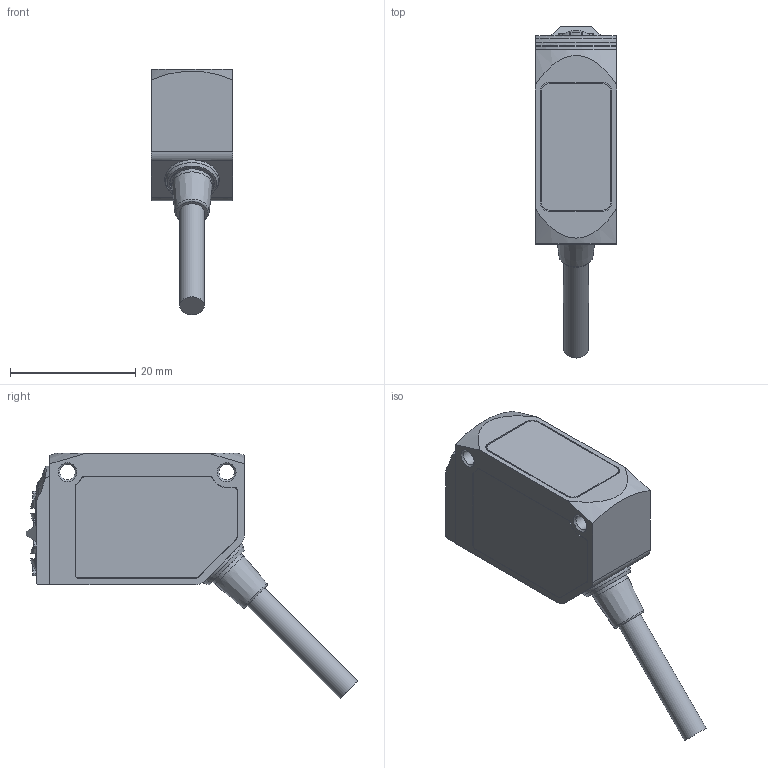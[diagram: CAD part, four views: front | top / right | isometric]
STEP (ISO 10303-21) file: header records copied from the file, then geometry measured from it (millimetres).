
FILE_DESCRIPTION( ( 'STEP AP203' ), ' ' );
FILE_NAME( 'p:/temp/worker_6912/5028_5948/app_47_02017050811361352141045192d056f_000000_00_00_000000/format_3/O6E300.stp', '2017-05-08T09:36:15', ( '' ), ( '' ), ' ', 'PARTsolutions', ' ' );
FILE_SCHEMA( ( 'CONFIG_CONTROL_DESIGN' ) );
Length unit declared in the file: millimetre
Products named in the file (1): _O6E300
Bounding box: 13 x 52.94 x 39.14 mm (x, y, z)
Volume: 8988.7 mm3; surface area: 3564.3 mm2
Topology: 1 solids, 1 shells, 172 faces, 446 edges, 287 vertices
Faces by surface type: plane 90, cylinder 64, torus 7, cone 7, sphere 4
Full cylindrical faces by diameter (mm): 2.459 x2, 4 x1, 4.8 x2, 5 x2, 6.4 x1
Entity records: 5242 total; most frequent: CARTESIAN_POINT 939, DIRECTION 932, ORIENTED_EDGE 848, EDGE_CURVE 424, AXIS2_PLACEMENT_3D 347, VERTEX_POINT 282, LINE 238, VECTOR 238
